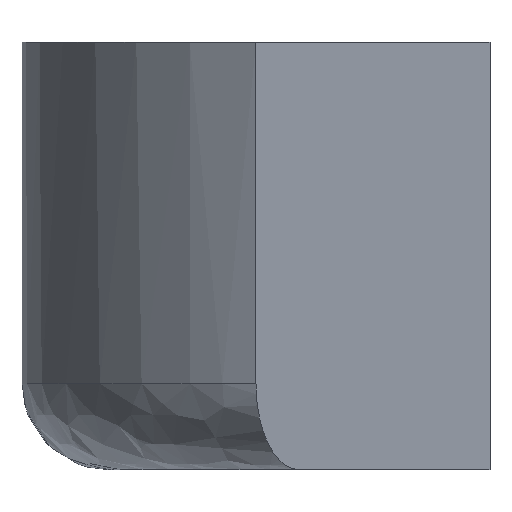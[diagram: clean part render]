
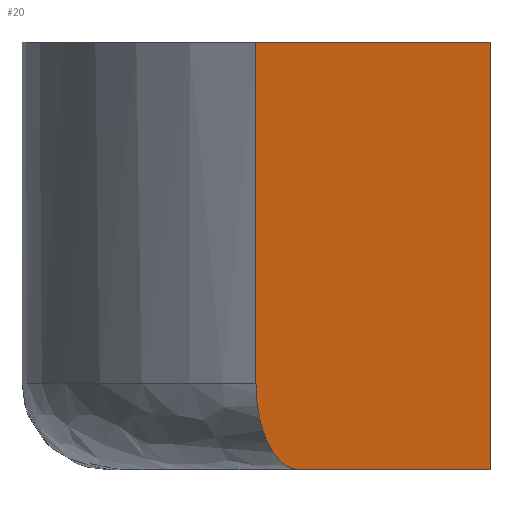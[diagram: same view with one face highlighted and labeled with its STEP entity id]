
A CAD part, left-side view. The second image highlights one B-rep face of the part: STEP entity #20.
In plain terms, the highlighted planar face has unit normal (-0.5, -0.866, 0).
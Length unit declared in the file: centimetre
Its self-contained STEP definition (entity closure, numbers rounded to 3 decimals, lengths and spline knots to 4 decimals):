
#20=ADVANCED_FACE('',(#39),#255,.T.);
#39=FACE_OUTER_BOUND('',#58,.T.);
#58=EDGE_LOOP('',(#93,#94,#95,#96,#97));
#93=ORIENTED_EDGE('',*,*,#149,.F.);
#94=ORIENTED_EDGE('',*,*,#151,.T.);
#95=ORIENTED_EDGE('',*,*,#153,.F.);
#96=ORIENTED_EDGE('',*,*,#159,.F.);
#97=ORIENTED_EDGE('',*,*,#160,.F.);
#149=EDGE_CURVE('',#233,#239,#201,.T.);
#151=EDGE_CURVE('',#233,#237,#203,.T.);
#153=EDGE_CURVE('',#236,#237,#188,.T.);
#159=EDGE_CURVE('',#240,#236,#206,.T.);
#160=EDGE_CURVE('',#239,#240,#207,.T.);
#188=(
BOUNDED_CURVE()
B_SPLINE_CURVE(2,(#774,#775,#776,#777,#778),.UNSPECIFIED.,.F.,.F.)
B_SPLINE_CURVE_WITH_KNOTS((3,2,3),(0.,0.7252,1.4349),
 .UNSPECIFIED.)
CURVE()
GEOMETRIC_REPRESENTATION_ITEM()
RATIONAL_B_SPLINE_CURVE((1.,0.795,0.741,0.795,
1.))
REPRESENTATION_ITEM('')
);
#201=B_SPLINE_CURVE_WITH_KNOTS('',1,(#766,#767),.UNSPECIFIED.,.F.,.F.,(2,
2),(-1.7105,-1.),.UNSPECIFIED.);
#203=B_SPLINE_CURVE_WITH_KNOTS('',1,(#770,#771),.UNSPECIFIED.,.F.,.F.,(2,
2),(40.34,43.389),.UNSPECIFIED.);
#206=B_SPLINE_CURVE_WITH_KNOTS('',1,(#799,#800),.UNSPECIFIED.,.F.,.F.,(2,
2),(1.,1.58),.UNSPECIFIED.);
#207=B_SPLINE_CURVE_WITH_KNOTS('',1,(#801,#802),.UNSPECIFIED.,.F.,.F.,(2,
2),(40.34,44.289),.UNSPECIFIED.);
#233=VERTEX_POINT('',#748);
#236=VERTEX_POINT('',#751);
#237=VERTEX_POINT('',#752);
#239=VERTEX_POINT('',#754);
#240=VERTEX_POINT('',#755);
#255=PLANE('',#293);
#293=AXIS2_PLACEMENT_3D('',#727,#305,$);
#305=DIRECTION('',(-0.5,-0.866,0.));
#727=CARTESIAN_POINT('',(6.0854,2.45,4.4732));
#748=CARTESIAN_POINT('',(6.0854,2.45,4.4732));
#751=CARTESIAN_POINT('',(6.8648,2.,0.));
#752=CARTESIAN_POINT('',(6.0854,2.45,0.9));
#754=CARTESIAN_POINT('',(10.3289,0.,4.4732));
#755=CARTESIAN_POINT('',(10.3289,0.,0.));
#766=CARTESIAN_POINT('',(6.0854,2.45,4.4732));
#767=CARTESIAN_POINT('',(10.3289,0.,4.4732));
#770=CARTESIAN_POINT('',(6.0854,2.45,4.4732));
#771=CARTESIAN_POINT('',(6.0854,2.45,0.9));
#774=CARTESIAN_POINT('',(6.8648,2.,0.));
#775=CARTESIAN_POINT('',(6.542,2.1864,0.));
#776=CARTESIAN_POINT('',(6.3137,2.3182,0.2636));
#777=CARTESIAN_POINT('',(6.0854,2.45,0.5272));
#778=CARTESIAN_POINT('',(6.0854,2.45,0.9));
#799=CARTESIAN_POINT('',(10.3289,0.,0.));
#800=CARTESIAN_POINT('',(6.8648,2.,0.));
#801=CARTESIAN_POINT('',(10.3289,0.,4.4732));
#802=CARTESIAN_POINT('',(10.3289,0.,0.));
